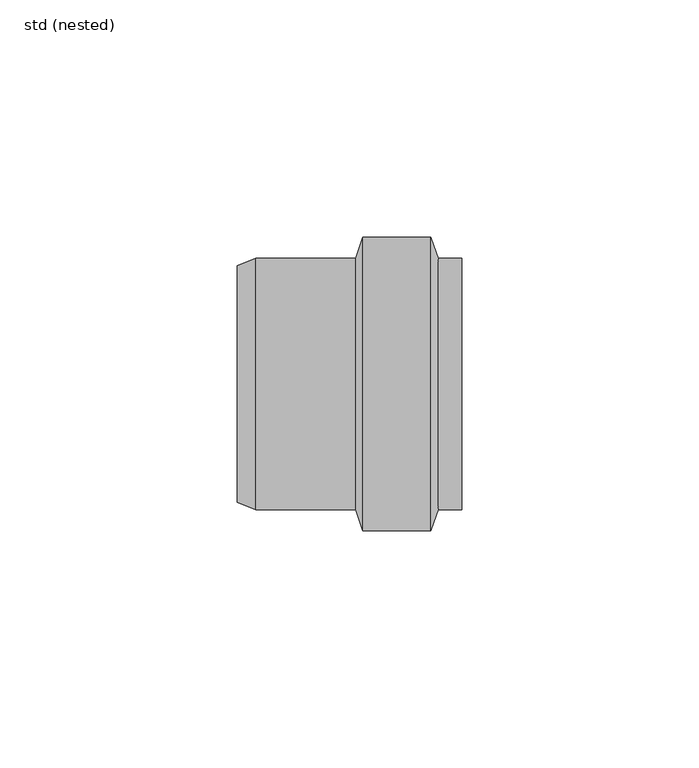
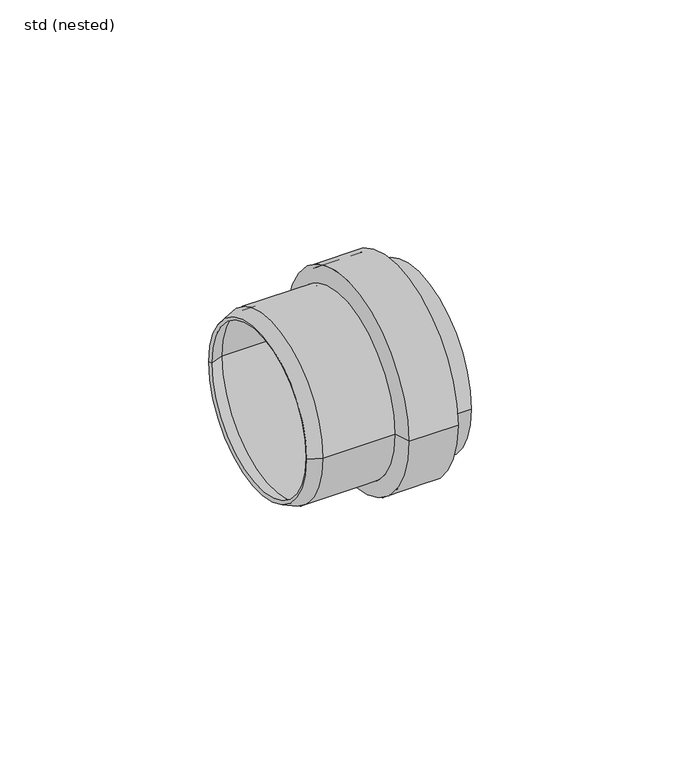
"""IFC4 building model written with IfcOpenShell, lengths in millimetres: pipe fitting geometry, ZZZ_do not use_PIF_ST_UN_ACO pipe socket_ACO : std (nested)."""

from ifc_helpers import new_model, si_unit, frame, origin, place, context, project, spatial, polyline, circle_curve, source, transform, mapped, element, save
from ifc_brep_helpers import plane_surface, cylinder_surface, revolved_surface, advanced_brep


def std_nested_072c2150(model_context):
    return source(origin(), model_context, "Body", "AdvancedBrep", [
        advanced_brep(
        [(42.0, -25.5, 0.0), (42.0, 25.5, 0.0), (36.4, 25.5, 0.0), (36.4, -25.5, 0.0), (42.0, -26.5, 0.0), (42.0, 26.5, 0.0), (37.1057737, -26.5, 0.0), (37.1057737, 26.5, 0.0), (35.5057737, -31.0, 0.0), (35.5057737, 31.0, 0.0), (21.1792408, -31.0, 0.0), (21.1792408, 31.0, 0.0), (19.6792408, -26.5, 0.0), (19.6792408, 26.5, 0.0), (-1.3902264, -26.5, 0.0), (-1.3902264, 26.5, 0.0), (-5.3671665, -24.9301552, 0.0), (-5.3671665, 24.9301552, 0.0), (-5.0, -24.0, 0.0), (-5.0, 24.0, 0.0), (-1.2, -25.5, 0.0), (-1.2, 25.5, 0.0), (20.4, -25.5, 0.0), (20.4, 25.5, 0.0), (21.9, -30.0, 0.0), (21.9, 30.0, 0.0), (34.8, -30.0, 0.0), (34.8, 30.0, 0.0)],
        [
            (0, 1, circle_curve(frame((42.0, 0.0, 0.0), z_axis=(1.0, 0.0, 0.0), x_axis=(0.0, 1.0, 0.0)), 25.5)),
            (1, 2),
            (2, 3, circle_curve(frame((36.4, 0.0, 0.0), z_axis=(-1.0, 0.0, 0.0), x_axis=(0.0, 1.0, 0.0)), 25.5)),
            (3, 0),
            (1, 0, circle_curve(frame((42.0, 0.0, 0.0), z_axis=(1.0, 0.0, 0.0), x_axis=(0.0, 1.0, 0.0)), 25.5)),
            (3, 2, circle_curve(frame((36.4, 0.0, 0.0), z_axis=(-1.0, 0.0, 0.0), x_axis=(0.0, 1.0, 0.0)), 25.5)),
            (4, 5, circle_curve(frame((42.0, 0.0, 0.0), z_axis=(1.0, 0.0, 0.0), x_axis=(0.0, 1.0, 0.0)), 26.5)),
            (5, 1),
            (0, 4),
            (5, 4, circle_curve(frame((42.0, 0.0, 0.0), z_axis=(1.0, 0.0, 0.0), x_axis=(0.0, 1.0, 0.0)), 26.5)),
            (6, 7, circle_curve(frame((37.1057737, 0.0, 0.0), z_axis=(1.0, 0.0, 0.0), x_axis=(0.0, 1.0, 0.0)), 26.5)),
            (7, 5),
            (4, 6),
            (7, 6, circle_curve(frame((37.1057737, 0.0, 0.0), z_axis=(1.0, 0.0, 0.0), x_axis=(0.0, 1.0, 0.0)), 26.5)),
            (8, 9, circle_curve(frame((35.5057737, 0.0, 0.0), z_axis=(1.0, 0.0, 0.0), x_axis=(0.0, 1.0, 0.0)), 31.0)),
            (9, 7),
            (6, 8),
            (9, 8, circle_curve(frame((35.5057737, 0.0, 0.0), z_axis=(1.0, 0.0, 0.0), x_axis=(0.0, 1.0, 0.0)), 31.0)),
            (10, 11, circle_curve(frame((21.1792408, 0.0, 0.0), z_axis=(1.0, 0.0, 0.0), x_axis=(0.0, 1.0, 0.0)), 31.0)),
            (11, 9),
            (8, 10),
            (11, 10, circle_curve(frame((21.1792408, 0.0, 0.0), z_axis=(1.0, 0.0, 0.0), x_axis=(0.0, 1.0, 0.0)), 31.0)),
            (12, 13, circle_curve(frame((19.6792408, 0.0, 0.0), z_axis=(1.0, 0.0, 0.0), x_axis=(0.0, 1.0, 0.0)), 26.5)),
            (13, 11),
            (10, 12),
            (13, 12, circle_curve(frame((19.6792408, 0.0, 0.0), z_axis=(1.0, 0.0, 0.0), x_axis=(0.0, 1.0, 0.0)), 26.5)),
            (14, 15, circle_curve(frame((-1.3902264, 0.0, 0.0), z_axis=(1.0, 0.0, 0.0), x_axis=(0.0, 1.0, 0.0)), 26.5)),
            (15, 13),
            (12, 14),
            (15, 14, circle_curve(frame((-1.3902264, 0.0, 0.0), z_axis=(1.0, 0.0, 0.0), x_axis=(0.0, 1.0, 0.0)), 26.5)),
            (16, 17, circle_curve(frame((-5.3671665, 0.0, 0.0), z_axis=(1.0, 0.0, 0.0), x_axis=(0.0, 1.0, 0.0)), 24.9301552)),
            (17, 15),
            (14, 16),
            (17, 16, circle_curve(frame((-5.3671665, 0.0, 0.0), z_axis=(1.0, 0.0, 0.0), x_axis=(0.0, 1.0, 0.0)), 24.9301552)),
            (18, 19, circle_curve(frame((-5.0, 0.0, 0.0), z_axis=(1.0, 0.0, 0.0), x_axis=(0.0, 1.0, 0.0)), 24.0)),
            (19, 17),
            (16, 18),
            (19, 18, circle_curve(frame((-5.0, 0.0, 0.0), z_axis=(1.0, 0.0, 0.0), x_axis=(0.0, 1.0, 0.0)), 24.0)),
            (20, 21, circle_curve(frame((-1.2, 0.0, 0.0), z_axis=(1.0, 0.0, 0.0), x_axis=(0.0, 1.0, 0.0)), 25.5)),
            (21, 19),
            (18, 20),
            (21, 20, circle_curve(frame((-1.2, 0.0, 0.0), z_axis=(1.0, 0.0, 0.0), x_axis=(0.0, 1.0, 0.0)), 25.5)),
            (22, 23, circle_curve(frame((20.4, 0.0, 0.0), z_axis=(1.0, 0.0, 0.0), x_axis=(0.0, 1.0, 0.0)), 25.5)),
            (23, 21),
            (20, 22),
            (23, 22, circle_curve(frame((20.4, 0.0, 0.0), z_axis=(1.0, 0.0, 0.0), x_axis=(0.0, 1.0, 0.0)), 25.5)),
            (24, 25, circle_curve(frame((21.9, 0.0, 0.0), z_axis=(1.0, 0.0, 0.0), x_axis=(0.0, 1.0, 0.0)), 30.0)),
            (25, 23),
            (22, 24),
            (25, 24, circle_curve(frame((21.9, 0.0, 0.0), z_axis=(1.0, 0.0, 0.0), x_axis=(0.0, 1.0, 0.0)), 30.0)),
            (26, 27, circle_curve(frame((34.8, 0.0, 0.0), z_axis=(1.0, 0.0, 0.0), x_axis=(0.0, 1.0, 0.0)), 30.0)),
            (27, 25),
            (24, 26),
            (27, 26, circle_curve(frame((34.8, 0.0, 0.0), z_axis=(1.0, 0.0, 0.0), x_axis=(0.0, 1.0, 0.0)), 30.0)),
            (2, 27),
            (26, 3),
        ],
        [
            revolved_surface(polyline([(36.39999999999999, 25.5, 0.0), (42.0, 25.5, 0.0)]), (-17.468946, 0.0, 0.0), (-1.0, 0.0, 0.0)),
            plane_surface(frame((42.0, 0.0, 0.0), z_axis=(1.0, 0.0, 0.0), x_axis=(0.0, 1.0, 0.0))),
            cylinder_surface(frame((-17.468946, 0.0, 0.0), z_axis=(-1.0, 0.0, 0.0), x_axis=(0.0, 1.0, 0.0)), 26.5),
            revolved_surface(polyline([(37.1057737, 26.5, 0.0), (35.5057737, 31.0, 0.0)]), (-17.468946, 0.0, 0.0), (-1.0, 0.0, 0.0)),
            cylinder_surface(frame((-17.468946, 0.0, 0.0), z_axis=(-1.0, 0.0, 0.0), x_axis=(0.0, 1.0, 0.0)), 31.0),
            revolved_surface(polyline([(21.1792408, 31.0, 0.0), (19.6792408, 26.5, 0.0)]), (-17.468946, 0.0, 0.0), (-1.0, 0.0, 0.0)),
            revolved_surface(polyline([(-1.3902264, 26.5, 0.0), (-5.3671665, 24.9301552, 0.0)]), (-17.468946, 0.0, 0.0), (-1.0, 0.0, 0.0)),
            revolved_surface(polyline([(-5.3671665, 24.9301552, 0.0), (-5.0, 24.0, 0.0)]), (-17.468946, 0.0, 0.0), (-1.0, 0.0, 0.0)),
            revolved_surface(polyline([(-5.0, 24.0, 0.0), (-1.2, 25.5, 0.0)]), (-17.468946, 0.0, 0.0), (-1.0, 0.0, 0.0)),
            revolved_surface(polyline([(-1.1999999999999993, 25.5, 0.0), (20.399999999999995, 25.5, 0.0)]), (-17.468946, 0.0, 0.0), (-1.0, 0.0, 0.0)),
            revolved_surface(polyline([(20.4, 25.5, 0.0), (21.9, 30.0, 0.0)]), (-17.468946, 0.0, 0.0), (-1.0, 0.0, 0.0)),
            revolved_surface(polyline([(21.899999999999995, 30.0, 0.0), (34.8, 30.0, 0.0)]), (-17.468946, 0.0, 0.0), (-1.0, 0.0, 0.0)),
            revolved_surface(polyline([(34.8, 30.0, 0.0), (36.4, 25.5, 0.0)]), (-17.468946, 0.0, 0.0), (-1.0, 0.0, 0.0)),
        ],
        [
            (0, [[1, 2, 3, 4]]),
            (0, [[5, -4, 6, -2]]),
            (1, [[7, 8, -1, 9]]),
            (1, [[10, -9, -5, -8]]),
            (2, [[11, 12, -7, 13]]),
            (2, [[14, -13, -10, -12]]),
            (3, [[15, 16, -11, 17]]),
            (3, [[18, -17, -14, -16]]),
            (4, [[19, 20, -15, 21]]),
            (4, [[22, -21, -18, -20]]),
            (5, [[23, 24, -19, 25]]),
            (5, [[26, -25, -22, -24]]),
            (2, [[27, 28, -23, 29]]),
            (2, [[30, -29, -26, -28]]),
            (6, [[31, 32, -27, 33]]),
            (6, [[34, -33, -30, -32]]),
            (7, [[35, 36, -31, 37]]),
            (7, [[38, -37, -34, -36]]),
            (8, [[39, 40, -35, 41]]),
            (8, [[42, -41, -38, -40]]),
            (9, [[43, 44, -39, 45]]),
            (9, [[46, -45, -42, -44]]),
            (10, [[47, 48, -43, 49]]),
            (10, [[50, -49, -46, -48]]),
            (11, [[51, 52, -47, 53]]),
            (11, [[54, -53, -50, -52]]),
            (12, [[-3, 55, -51, 56]]),
            (12, [[-6, -56, -54, -55]]),
        ],
    ),
    ])


if __name__ == "__main__":
    model = new_model("IFC4")
    model_context = context("Model", 3, world=origin())
    ifc_project = project(units=[si_unit("LENGTHUNIT", "METRE", prefix="MILLI")], contexts=[model_context])
    site = spatial("IfcSite", under=ifc_project)
    building = spatial("IfcBuilding", under=site)
    placement = place(None, origin())
    std_nested_shape = std_nested_072c2150(model_context)
    element("IfcPipeFitting", 1, ObjectType="ZZZ_do not use_PIF_ST_UN_ACO pipe socket_ACO : std (nested)", at=placement, inside=building, context=model_context, shape_type="MappedRepresentation", body=[
        mapped(std_nested_shape, transform((0.0, 0.0, 0.0), x_axis=(1.0, 0.0, 0.0), y_axis=(0.0, 1.0, 0.0), z_axis=(0.0, 0.0, 1.0))),
    ])
    save(model, "model.ifc")
